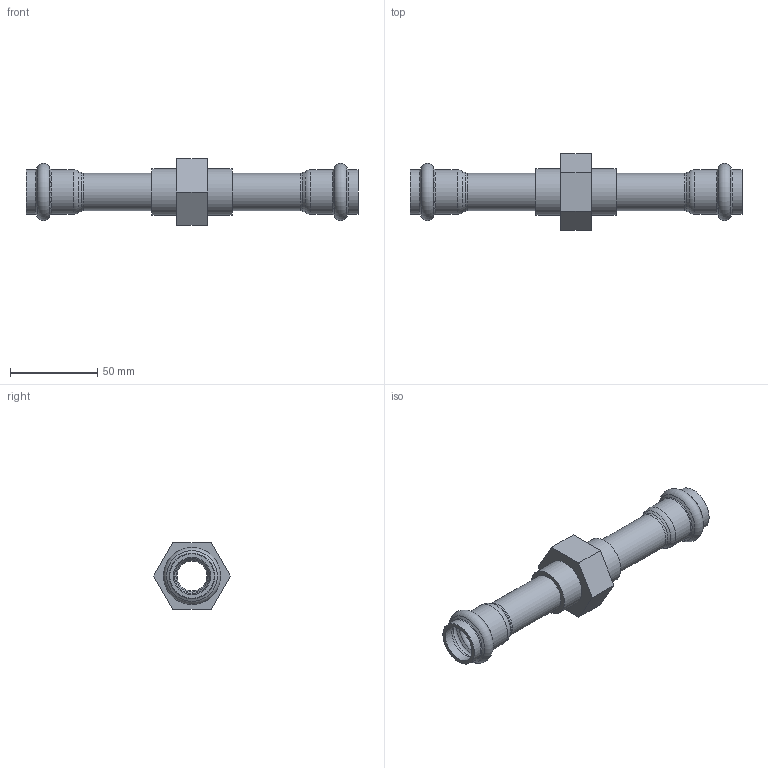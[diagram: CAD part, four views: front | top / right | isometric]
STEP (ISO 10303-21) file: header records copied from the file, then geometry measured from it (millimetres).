
FILE_DESCRIPTION(/* description */ ('VIC THREADED UNION STYLE P585 (P X P)','CAx-IF Rec.Pracs.---Representation and Presentation of Product Manufacturing Information (PMI)---4.0---2014-10-13'),/* implementation_level */ '2;1');
FILE_NAME(/* name */ 'C:\Users\kkamble\AppData\Roaming\Autodesk\ApplicationPlugins\Back Up\Victaulic_SS-Vic-Press-TP 316_Union Threaded_Style P585 (VP)\Victaulic_SS-Vic-Press-TP 316_Union Threaded_Style P585 (VP)_0.5 (15).stp',/* time_stamp */ '2020-08-14T15:52:41+05:00',/* author */ ('jheald'),/* organization */ ('Victaulic'),/* preprocessor_version */ 'ST-DEVELOPER v17.2',/* originating_system */ 'Autodesk Inventor 2019',/* authorisation */ '');
FILE_SCHEMA (('AP242_MANAGED_MODEL_BASED_3D_ENGINEERING_MIM_LF { 1 0 10303 442 1 1 4 }'));
Length unit declared in the file: inch
Products named in the file (1): P585-0.5
Bounding box: 190.5 x 43.99 x 38.1 mm (x, y, z)
Volume: 49498.5 mm3; surface area: 30032.3 mm2
Topology: 1 solids, 1 shells, 57 faces, 201 edges, 150 vertices
Faces by surface type: torus 20, cylinder 13, cone 12, plane 12
Full cylindrical faces by diameter (mm): 17.12 x1, 21.336 x6, 25.552 x4, 26.924 x2
Entity records: 2539 total; most frequent: DIRECTION 501, CARTESIAN_POINT 426, ORIENTED_EDGE 402, AXIS2_PLACEMENT_3D 229, EDGE_CURVE 201, CIRCLE 158, VERTEX_POINT 150, EDGE_LOOP 63
